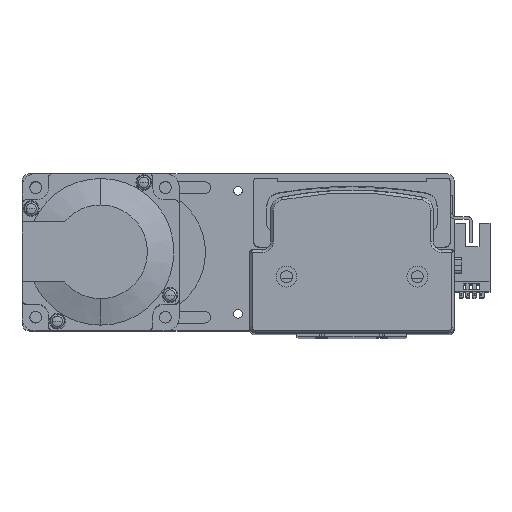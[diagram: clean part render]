
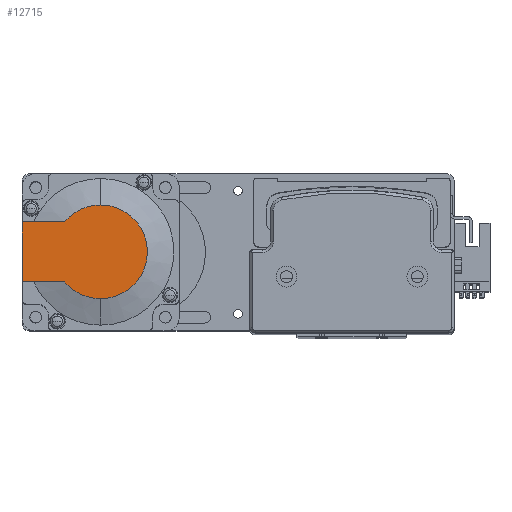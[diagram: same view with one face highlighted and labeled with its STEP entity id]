
A CAD part, top view. The second image highlights one B-rep face of the part: STEP entity #12715.
In plain terms, the highlighted planar face has unit normal (0, 0, 1) as drawn and (-1, 0, 0) by its records, which use the part's own axes.
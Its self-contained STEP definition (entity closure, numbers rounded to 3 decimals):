
#729 = DIRECTION ( 'NONE',  ( -1., 0., 0. ) ) ;
#1912 = VECTOR ( 'NONE', #14590, 1000. ) ;
#2959 = ORIENTED_EDGE ( 'NONE', *, *, #45281, .F. ) ;
#3621 = EDGE_CURVE ( 'NONE', #11441, #14172, #41605, .T. ) ;
#5458 = CARTESIAN_POINT ( 'NONE',  ( -118.5, 0., 0. ) ) ;
#7042 = AXIS2_PLACEMENT_3D ( 'NONE', #22907, #729, #26596 ) ;
#7201 = VERTEX_POINT ( 'NONE', #40177 ) ;
#7645 = CARTESIAN_POINT ( 'NONE',  ( -118.5, 13.735, -11.45 ) ) ;
#8091 = PLANE ( 'NONE',  #7042 ) ;
#8922 = VECTOR ( 'NONE', #19108, 1000. ) ;
#9181 = DIRECTION ( 'NONE',  ( 0., 0., -1. ) ) ;
#9531 = CARTESIAN_POINT ( 'NONE',  ( -118.5, 30., -11.45 ) ) ;
#9717 = CARTESIAN_POINT ( 'NONE',  ( -118.5, 0., 0. ) ) ;
#9966 = CARTESIAN_POINT ( 'NONE',  ( -118.5, 30., 11.45 ) ) ;
#11441 = VERTEX_POINT ( 'NONE', #7645 ) ;
#12715 = ADVANCED_FACE ( 'NONE', ( #46422 ), #8091, .T. ) ;
#12958 = ORIENTED_EDGE ( 'NONE', *, *, #37962, .F. ) ;
#13485 = DIRECTION ( 'NONE',  ( 0., 0., -1. ) ) ;
#14003 = AXIS2_PLACEMENT_3D ( 'NONE', #9717, #35400, #13485 ) ;
#14172 = VERTEX_POINT ( 'NONE', #40309 ) ;
#14590 = DIRECTION ( 'NONE',  ( 0., -1., 0. ) ) ;
#14733 = CARTESIAN_POINT ( 'NONE',  ( -118.5, 0., 11.45 ) ) ;
#16615 = AXIS2_PLACEMENT_3D ( 'NONE', #17380, #42963, #21069 ) ;
#17380 = CARTESIAN_POINT ( 'NONE',  ( -118.5, 0., 0. ) ) ;
#17468 = DIRECTION ( 'NONE',  ( 0., -1., 0. ) ) ;
#19108 = DIRECTION ( 'NONE',  ( 0., 0., 1. ) ) ;
#19417 = VERTEX_POINT ( 'NONE', #35027 ) ;
#19928 = ORIENTED_EDGE ( 'NONE', *, *, #32215, .T. ) ;
#20049 = ORIENTED_EDGE ( 'NONE', *, *, #23241, .T. ) ;
#21069 = DIRECTION ( 'NONE',  ( 0., 0., -1. ) ) ;
#21185 = CIRCLE ( 'NONE', #14003, 17.881 ) ;
#22907 = CARTESIAN_POINT ( 'NONE',  ( -118.5, -8.941, 0. ) ) ;
#23241 = EDGE_CURVE ( 'NONE', #32647, #11441, #34092, .T. ) ;
#23964 = EDGE_CURVE ( 'NONE', #14172, #19417, #25360, .T. ) ;
#24387 = VECTOR ( 'NONE', #17468, 1000. ) ;
#24552 = ORIENTED_EDGE ( 'NONE', *, *, #23964, .T. ) ;
#25360 = CIRCLE ( 'NONE', #42474, 17.881 ) ;
#26462 = CARTESIAN_POINT ( 'NONE',  ( -118.5, 30., 25. ) ) ;
#26596 = DIRECTION ( 'NONE',  ( 0., 0., 1. ) ) ;
#26910 = ORIENTED_EDGE ( 'NONE', *, *, #3621, .T. ) ;
#27852 = VERTEX_POINT ( 'NONE', #9966 ) ;
#28441 = LINE ( 'NONE', #26462, #8922 ) ;
#30118 = LINE ( 'NONE', #14733, #1912 ) ;
#31187 = DIRECTION ( 'NONE',  ( -1., 0., 0. ) ) ;
#32215 = EDGE_CURVE ( 'NONE', #19417, #7201, #21185, .T. ) ;
#32596 = EDGE_LOOP ( 'NONE', ( #20049, #26910, #24552, #19928, #12958, #2959 ) ) ;
#32647 = VERTEX_POINT ( 'NONE', #9531 ) ;
#34092 = LINE ( 'NONE', #39365, #24387 ) ;
#35027 = CARTESIAN_POINT ( 'NONE',  ( -118.5, 0., 17.881 ) ) ;
#35400 = DIRECTION ( 'NONE',  ( -1., 0., 0. ) ) ;
#37962 = EDGE_CURVE ( 'NONE', #27852, #7201, #30118, .T. ) ;
#39365 = CARTESIAN_POINT ( 'NONE',  ( -118.5, -8.941, -11.45 ) ) ;
#40177 = CARTESIAN_POINT ( 'NONE',  ( -118.5, 13.735, 11.45 ) ) ;
#40309 = CARTESIAN_POINT ( 'NONE',  ( -118.5, 0., -17.881 ) ) ;
#41605 = CIRCLE ( 'NONE', #16615, 17.881 ) ;
#42474 = AXIS2_PLACEMENT_3D ( 'NONE', #5458, #31187, #9181 ) ;
#42963 = DIRECTION ( 'NONE',  ( -1., 0., 0. ) ) ;
#45281 = EDGE_CURVE ( 'NONE', #32647, #27852, #28441, .T. ) ;
#46422 = FACE_OUTER_BOUND ( 'NONE', #32596, .T. ) ;
